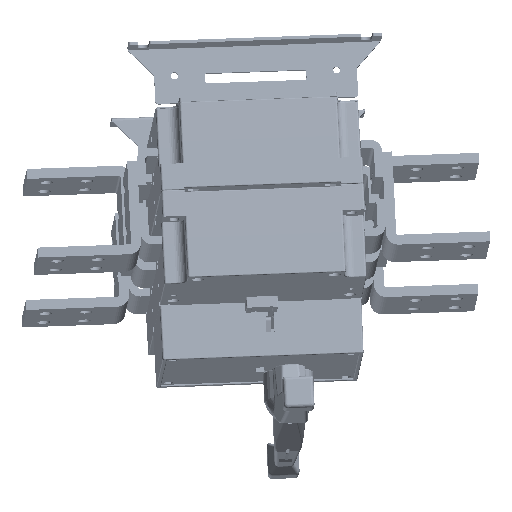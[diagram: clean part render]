
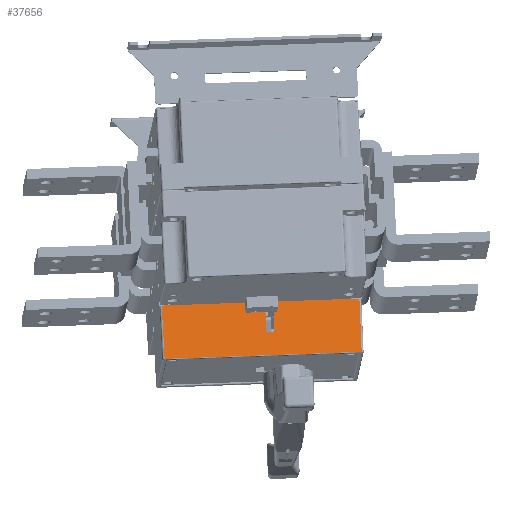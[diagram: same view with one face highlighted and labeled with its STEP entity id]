
A CAD part, left-side view. The second image highlights one B-rep face of the part: STEP entity #37656.
In plain terms, the highlighted planar face has unit normal (-0.977, -0.049, 0.21) as drawn and (-1, 0, 0.005) by its records, which use the part's own axes.
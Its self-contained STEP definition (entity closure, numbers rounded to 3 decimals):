
#789 = CARTESIAN_POINT ( 'NONE',  ( -66.626, -124.751, -54.591 ) ) ;
#2717 = DIRECTION ( 'NONE',  ( 0., 1., 0. ) ) ;
#3024 = EDGE_CURVE ( 'NONE', #233910, #91218, #208926, .T. ) ;
#4999 = CARTESIAN_POINT ( 'NONE',  ( -66.626, -22.904, -54.591 ) ) ;
#6682 = VERTEX_POINT ( 'NONE', #165198 ) ;
#10287 = DIRECTION ( 'NONE',  ( -1., 0., 0.005 ) ) ;
#13175 = EDGE_CURVE ( 'NONE', #86934, #6682, #185359, .T. ) ;
#13714 = CARTESIAN_POINT ( 'NONE',  ( -66.46, -22.904, -24.351 ) ) ;
#17209 = ORIENTED_EDGE ( 'NONE', *, *, #146868, .F. ) ;
#23563 = CARTESIAN_POINT ( 'NONE',  ( -66.626, -124.751, -54.591 ) ) ;
#26112 = VECTOR ( 'NONE', #173920, 1000. ) ;
#37656 = ADVANCED_FACE ( 'NONE', ( #49741 ), #217102, .T. ) ;
#37900 = VECTOR ( 'NONE', #85867, 1000. ) ;
#42472 = CARTESIAN_POINT ( 'NONE',  ( -66.332, 69.966, -0.993 ) ) ;
#42577 = DIRECTION ( 'NONE',  ( 0., 1., 0. ) ) ;
#46591 = CARTESIAN_POINT ( 'NONE',  ( -66.626, -27.246, -54.591 ) ) ;
#47449 = EDGE_CURVE ( 'NONE', #236462, #121326, #88117, .T. ) ;
#47664 = CARTESIAN_POINT ( 'NONE',  ( -66.626, -14.92, -54.591 ) ) ;
#48616 = ORIENTED_EDGE ( 'NONE', *, *, #98664, .F. ) ;
#49741 = FACE_OUTER_BOUND ( 'NONE', #95083, .T. ) ;
#58578 = VECTOR ( 'NONE', #2717, 1000. ) ;
#58932 = CARTESIAN_POINT ( 'NONE',  ( -66.332, -124.457, -0.993 ) ) ;
#79207 = DIRECTION ( 'NONE',  ( -0.005, 0., -1. ) ) ;
#81786 = VECTOR ( 'NONE', #192893, 1000. ) ;
#84183 = EDGE_CURVE ( 'NONE', #91218, #86934, #127737, .T. ) ;
#85867 = DIRECTION ( 'NONE',  ( 0.005, 0.005, 1. ) ) ;
#86934 = VERTEX_POINT ( 'NONE', #47664 ) ;
#87769 = LINE ( 'NONE', #4999, #81786 ) ;
#88117 = LINE ( 'NONE', #197899, #37900 ) ;
#90024 = ORIENTED_EDGE ( 'NONE', *, *, #84183, .F. ) ;
#90162 = VERTEX_POINT ( 'NONE', #42472 ) ;
#90888 = VERTEX_POINT ( 'NONE', #106416 ) ;
#91218 = VERTEX_POINT ( 'NONE', #97082 ) ;
#93522 = ORIENTED_EDGE ( 'NONE', *, *, #13175, .F. ) ;
#95083 = EDGE_LOOP ( 'NONE', ( #48616, #17209, #171391, #191250, #217296, #93522, #90024, #178168 ) ) ;
#97082 = CARTESIAN_POINT ( 'NONE',  ( -66.46, -14.92, -24.351 ) ) ;
#98103 = CARTESIAN_POINT ( 'NONE',  ( -66.332, 69.966, -0.993 ) ) ;
#98664 = EDGE_CURVE ( 'NONE', #90888, #233910, #87769, .T. ) ;
#100026 = EDGE_CURVE ( 'NONE', #90162, #6682, #199344, .T. ) ;
#106416 = CARTESIAN_POINT ( 'NONE',  ( -66.626, -22.904, -54.591 ) ) ;
#106429 = LINE ( 'NONE', #136236, #112261 ) ;
#111639 = EDGE_CURVE ( 'NONE', #90162, #121326, #106429, .T. ) ;
#112261 = VECTOR ( 'NONE', #155335, 1000. ) ;
#121326 = VERTEX_POINT ( 'NONE', #58932 ) ;
#127737 = LINE ( 'NONE', #230735, #166200 ) ;
#135106 = VECTOR ( 'NONE', #229973, 1000. ) ;
#135242 = CARTESIAN_POINT ( 'NONE',  ( -66.626, -14.92, -54.591 ) ) ;
#136236 = CARTESIAN_POINT ( 'NONE',  ( -66.332, 69.966, -0.993 ) ) ;
#142151 = DIRECTION ( 'NONE',  ( 0.005, 0., 1. ) ) ;
#146868 = EDGE_CURVE ( 'NONE', #236462, #90888, #223606, .T. ) ;
#155335 = DIRECTION ( 'NONE',  ( 0., -1., 0. ) ) ;
#165198 = CARTESIAN_POINT ( 'NONE',  ( -66.626, 70.26, -54.591 ) ) ;
#166200 = VECTOR ( 'NONE', #79207, 1000. ) ;
#171391 = ORIENTED_EDGE ( 'NONE', *, *, #47449, .T. ) ;
#172566 = CARTESIAN_POINT ( 'NONE',  ( -66.46, -22.904, -24.351 ) ) ;
#173920 = DIRECTION ( 'NONE',  ( -0.005, 0.005, -1. ) ) ;
#178168 = ORIENTED_EDGE ( 'NONE', *, *, #3024, .F. ) ;
#185359 = LINE ( 'NONE', #135242, #135106 ) ;
#185428 = VECTOR ( 'NONE', #42577, 1000. ) ;
#191250 = ORIENTED_EDGE ( 'NONE', *, *, #111639, .F. ) ;
#192893 = DIRECTION ( 'NONE',  ( 0.005, 0., 1. ) ) ;
#197899 = CARTESIAN_POINT ( 'NONE',  ( -66.626, -124.751, -54.591 ) ) ;
#198090 = AXIS2_PLACEMENT_3D ( 'NONE', #46591, #10287, #142151 ) ;
#199344 = LINE ( 'NONE', #98103, #26112 ) ;
#208926 = LINE ( 'NONE', #172566, #58578 ) ;
#217102 = PLANE ( 'NONE',  #198090 ) ;
#217296 = ORIENTED_EDGE ( 'NONE', *, *, #100026, .T. ) ;
#223606 = LINE ( 'NONE', #23563, #185428 ) ;
#229973 = DIRECTION ( 'NONE',  ( 0., 1., 0. ) ) ;
#230735 = CARTESIAN_POINT ( 'NONE',  ( -66.46, -14.92, -24.351 ) ) ;
#233910 = VERTEX_POINT ( 'NONE', #13714 ) ;
#236462 = VERTEX_POINT ( 'NONE', #789 ) ;
